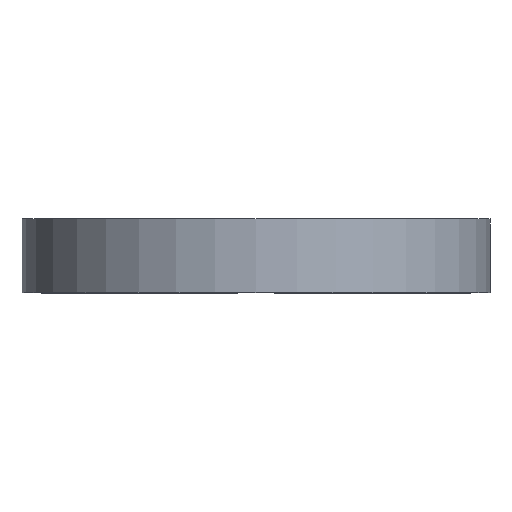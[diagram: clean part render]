
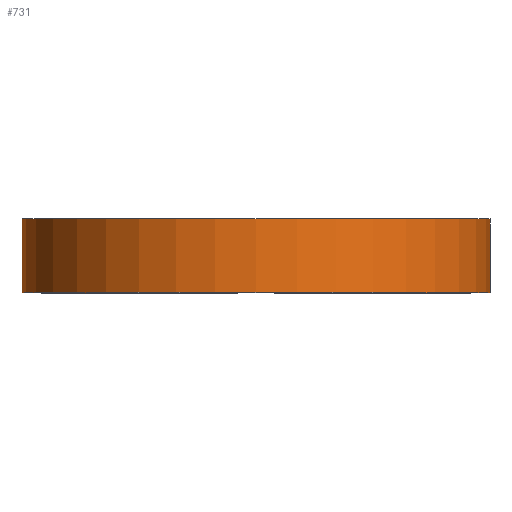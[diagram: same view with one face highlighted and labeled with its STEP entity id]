
A CAD part, top view. The second image highlights one B-rep face of the part: STEP entity #731.
In plain terms, the highlighted cylindrical face has radius 9.5 mm (diameter 19 mm), a partial arc.
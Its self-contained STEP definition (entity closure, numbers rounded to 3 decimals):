
#48 = DIRECTION ( 'NONE',  ( 0., 0., 1. ) ) ;
#70 = EDGE_CURVE ( 'NONE', #514, #1092, #206, .T. ) ;
#77 = CARTESIAN_POINT ( 'NONE',  ( 8.927, 0., -3.249 ) ) ;
#85 = EDGE_CURVE ( 'NONE', #950, #1092, #937, .T. ) ;
#92 = EDGE_LOOP ( 'NONE', ( #352, #421, #702, #886 ) ) ;
#160 = EDGE_CURVE ( 'NONE', #920, #950, #770, .T. ) ;
#193 = DIRECTION ( 'NONE',  ( 0., -1., 0. ) ) ;
#206 = LINE ( 'NONE', #732, #803 ) ;
#267 = VECTOR ( 'NONE', #680, 1000. ) ;
#292 = EDGE_CURVE ( 'NONE', #920, #514, #502, .T. ) ;
#352 = ORIENTED_EDGE ( 'NONE', *, *, #85, .T. ) ;
#371 = CYLINDRICAL_SURFACE ( 'NONE', #645, 9.5 ) ;
#391 = DIRECTION ( 'NONE',  ( 0., 1., 0. ) ) ;
#421 = ORIENTED_EDGE ( 'NONE', *, *, #70, .F. ) ;
#502 = CIRCLE ( 'NONE', #589, 9.5 ) ;
#514 = VERTEX_POINT ( 'NONE', #958 ) ;
#557 = CARTESIAN_POINT ( 'NONE',  ( 0., 3., 0. ) ) ;
#570 = DIRECTION ( 'NONE',  ( 0., 1., 0. ) ) ;
#589 = AXIS2_PLACEMENT_3D ( 'NONE', #633, #391, #48 ) ;
#633 = CARTESIAN_POINT ( 'NONE',  ( 0., 3., 0. ) ) ;
#645 = AXIS2_PLACEMENT_3D ( 'NONE', #557, #193, #996 ) ;
#680 = DIRECTION ( 'NONE',  ( 0., -1., 0. ) ) ;
#702 = ORIENTED_EDGE ( 'NONE', *, *, #292, .F. ) ;
#719 = DIRECTION ( 'NONE',  ( 0., 0., 1. ) ) ;
#728 = FACE_OUTER_BOUND ( 'NONE', #92, .T. ) ;
#731 = ADVANCED_FACE ( 'NONE', ( #728 ), #371, .T. ) ;
#732 = CARTESIAN_POINT ( 'NONE',  ( 8.927, 3., -3.249 ) ) ;
#744 = CARTESIAN_POINT ( 'NONE',  ( -8.927, 3., -3.249 ) ) ;
#770 = LINE ( 'NONE', #744, #267 ) ;
#802 = CARTESIAN_POINT ( 'NONE',  ( 0., 0., 0. ) ) ;
#803 = VECTOR ( 'NONE', #808, 1000. ) ;
#808 = DIRECTION ( 'NONE',  ( 0., -1., 0. ) ) ;
#830 = CARTESIAN_POINT ( 'NONE',  ( -8.927, 3., -3.249 ) ) ;
#886 = ORIENTED_EDGE ( 'NONE', *, *, #160, .T. ) ;
#920 = VERTEX_POINT ( 'NONE', #830 ) ;
#930 = CARTESIAN_POINT ( 'NONE',  ( -8.927, 0., -3.249 ) ) ;
#937 = CIRCLE ( 'NONE', #1082, 9.5 ) ;
#950 = VERTEX_POINT ( 'NONE', #930 ) ;
#958 = CARTESIAN_POINT ( 'NONE',  ( 8.927, 3., -3.249 ) ) ;
#996 = DIRECTION ( 'NONE',  ( 0., 0., -1. ) ) ;
#1082 = AXIS2_PLACEMENT_3D ( 'NONE', #802, #570, #719 ) ;
#1092 = VERTEX_POINT ( 'NONE', #77 ) ;
